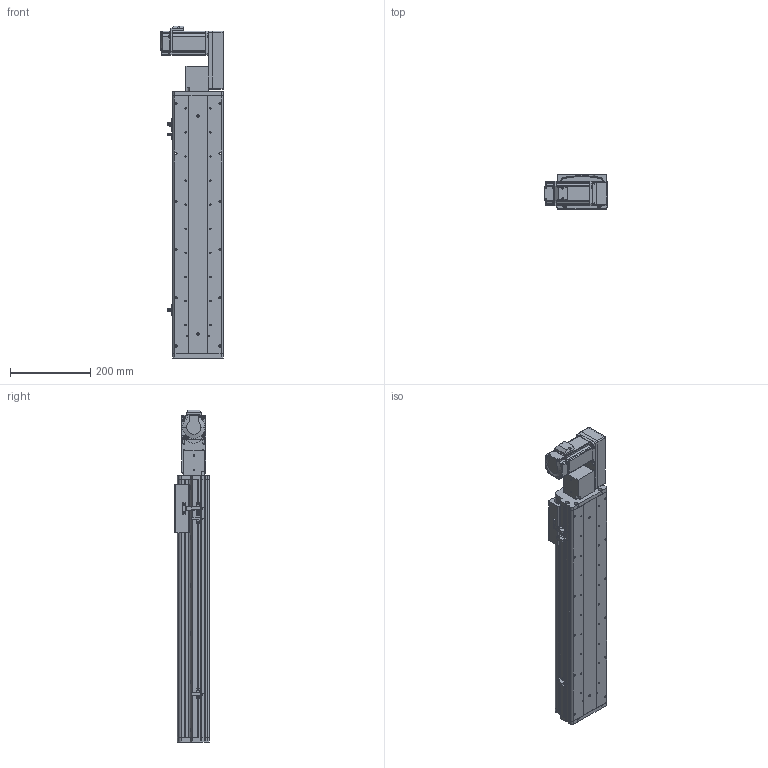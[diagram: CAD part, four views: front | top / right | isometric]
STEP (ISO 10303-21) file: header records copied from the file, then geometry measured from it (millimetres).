
FILE_DESCRIPTION (( 'STEP AP214' ), '1' );
FILE_NAME ('KSD125B-S450-MLB-CM.STEP', '2017-10-21T01:36:39', ( '微软用户' ), ( '微软中国' ), 'SwSTEP 2.0', 'SolidWorks 2014', '' );
FILE_SCHEMA (( 'AUTOMOTIVE_DESIGN' ));
Length unit declared in the file: millimetre
Products named in the file (17): 125模组450行程同步带-底板; KSD125模组同步带-防撞垫2; 覜茼え68遵圉猾敕; U倰嫖萇假蚾璃; U倰嫖萇EEㄜSX672; KSD125模组同步带-防撞垫1; 前端板-125宽模组同步带; 125模组同步带-尾端板1; KSD125模组同步带-滑动座1; KSD125B-S450-MLB-CM; 悵誘欶奻狟殏; HTPA30S3M150_A_H6_a佪裝蚚; HTPA30S3M150_A_H6_a萇儂蚚; 100宽马达安装板连板上下折丝杆同步带; MHMD042G1CA_2_03; 100宽马达安装板同步带左; KSD125模组450行程同步带-防尘盖
Assembly tree (20 placements, depth 2):
  KSD125B-S450-MLB-CM
    KSD125模组同步带-滑动座1
    125模组同步带-尾端板1
    前端板-125宽模组同步带
    KSD125模组同步带-防撞垫1
    U倰嫖萇EEㄜSX672  x3
    U倰嫖萇假蚾璃  x3
    覜茼え68遵圉猾敕
    KSD125模组同步带-防撞垫2
    125模组450行程同步带-底板
    KSD125模组450行程同步带-防尘盖
    100宽马达安装板同步带左
    MHMD042G1CA_2_03
    100宽马达安装板连板上下折丝杆同步带
    HTPA30S3M150_A_H6_a萇儂蚚
    HTPA30S3M150_A_H6_a佪裝蚚
    悵誘欶奻狟殏
Bounding box: 155 x 86 x 828 mm (x, y, z)
Volume: 2457131.7 mm3; surface area: 858139.9 mm2
Topology: 19 solids, 22 shells, 2235 faces, 6469 edges, 4274 vertices
Faces by surface type: cylinder 1388, plane 720, cone 105, bspline 22
Entity records: 79151 total; most frequent: CARTESIAN_POINT 15663, DIRECTION 12314, ORIENTED_EDGE 11458, EDGE_CURVE 5807, AXIS2_PLACEMENT_3D 4749, VERTEX_POINT 3866, LINE 2816, VECTOR 2816
